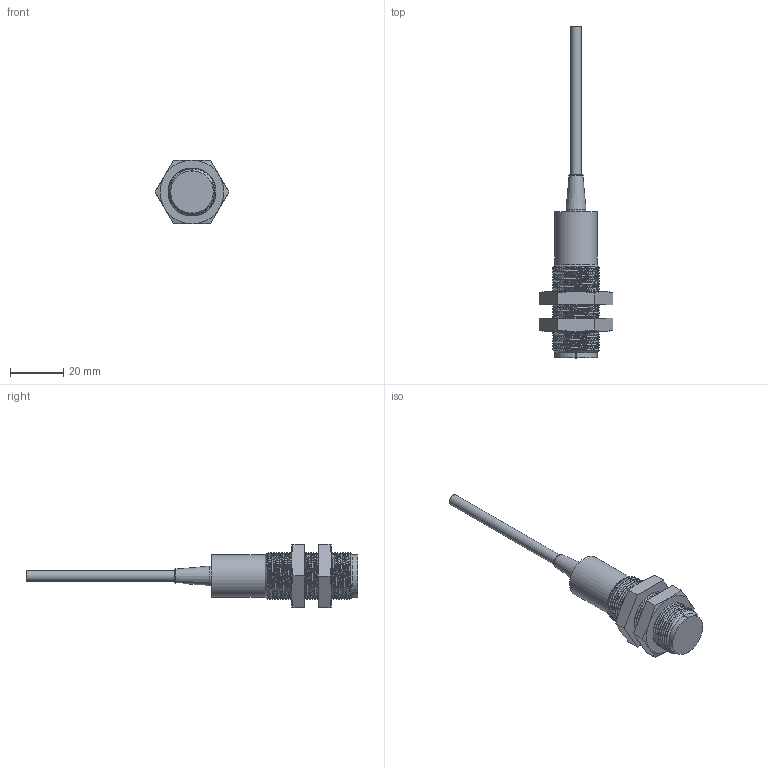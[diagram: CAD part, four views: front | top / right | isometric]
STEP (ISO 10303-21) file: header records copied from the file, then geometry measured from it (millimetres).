
FILE_DESCRIPTION(/* description */ ('Katalogmodell Elobau'),/* implementation_level */ '2;1');
FILE_NAME(/* name */ 'Katalogdaten.stp',/* time_stamp */ '2014-09-10T17:40:17+02:00',/* author */ ('Elobau GmbH & Co. KG'),/* organization */ ('Elobau GmbH & Co. KG'),/* preprocessor_version */ 'ST-DEVELOPER v15',/* originating_system */ 'SIEMENS PLM Software NX 8.5',/* authorisation */ '');
FILE_SCHEMA (('AUTOMOTIVE_DESIGN { 1 0 10303 214 3 1 1 1 }'));
Length unit declared in the file: millimetre
Products named in the file (1): 120271_D
Bounding box: 27.71 x 125 x 24 mm (x, y, z)
Volume: 18402.4 mm3; surface area: 8216.2 mm2
Topology: 3 solids, 3 shells, 55 faces, 130 edges, 83 vertices
Faces by surface type: plane 29, cone 16, cylinder 7, bspline 2, torus 1
Full cylindrical faces by diameter (mm): 4.1 x1, 7.5 x1, 16 x1
Entity records: 12988 total; most frequent: CARTESIAN_POINT 11839, ORIENTED_EDGE 230, DIRECTION 220, EDGE_CURVE 115, AXIS2_PLACEMENT_3D 85, VERTEX_POINT 76, EDGE_LOOP 63, ADVANCED_FACE 54
